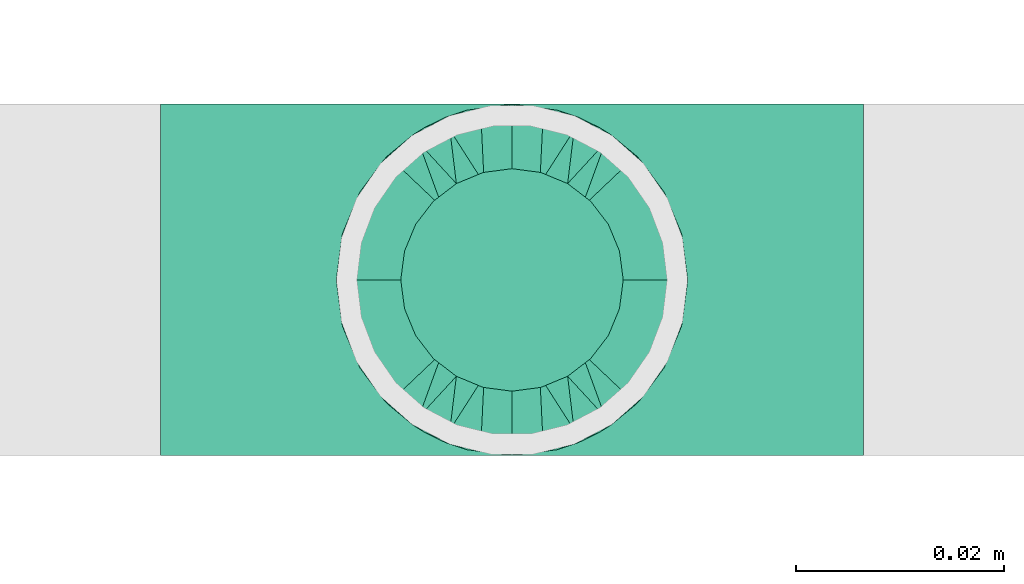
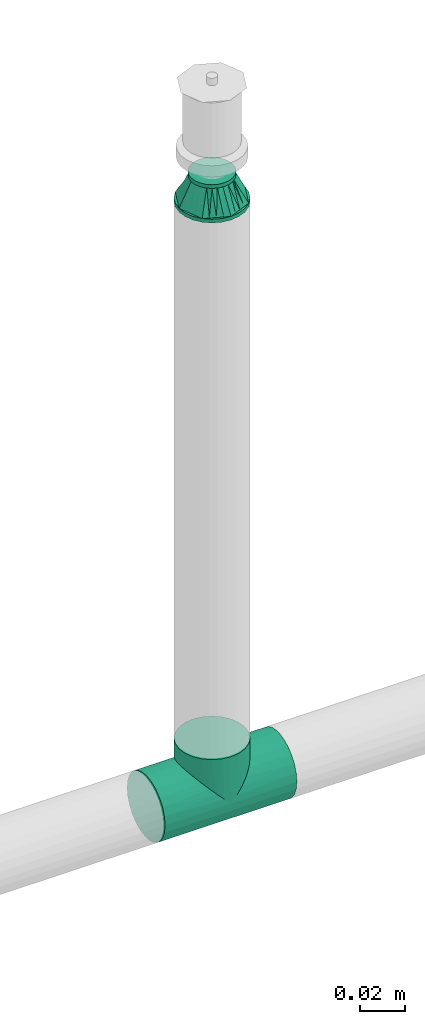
# One storey, part 51 of 63: 2 flow fittings.
"""IFC2X3 building model written with IfcOpenShell, lengths in millimetres."""

from ifc_helpers import new_model, entity, si_unit, converted_unit, derived_unit, direction, frame, origin_with_axes, place, context, subcontext, project, spatial, open_shell, surface_model, source, transform, mapped, type_object, element, save


model = new_model("IFC2X3")

# Units and contexts
model_context = context("Model", 3, precision=0.01, world=frame((0.0, 4.29681676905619e-09, 0.0)), true_north=direction((4.01073788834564e-13, 1.0)))
plan_context = context("Plan", 3, precision=0.01, world=frame((0.0, 4.29681676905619e-09, 0.0)), true_north=direction((4.01073788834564e-13, 1.0)))
body_context = subcontext(model_context, "Body", "Model", "MODEL_VIEW")
ifc_project = project(units=[converted_unit("PLANEANGLEUNIT", "DEGREE", entity("IfcPositiveLengthMeasure", 0.0174532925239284), si_unit("PLANEANGLEUNIT", "RADIAN"), dimensions=[0, 0, 0, 0, 0, 0, 0]), si_unit("AREAUNIT", "SQUARE_METRE"), si_unit("LENGTHUNIT", "METRE", prefix="MILLI"), si_unit("MASSUNIT", "GRAM", prefix="KILO"), si_unit("POWERUNIT", "WATT"), si_unit("PRESSUREUNIT", "PASCAL", prefix="KILO"), si_unit("FORCEUNIT", "NEWTON", prefix="KILO"), si_unit("ELECTRICVOLTAGEUNIT", "VOLT"), si_unit("ELECTRICCURRENTUNIT", "AMPERE"), si_unit("THERMODYNAMICTEMPERATUREUNIT", "DEGREE_CELSIUS"), si_unit("TIMEUNIT", "SECOND"), si_unit("VOLUMEUNIT", "CUBIC_METRE"), derived_unit("LINEARVELOCITYUNIT", [(si_unit("LENGTHUNIT", "METRE"), 1), (si_unit("TIMEUNIT", "SECOND"), -1)]), derived_unit("VOLUMETRICFLOWRATEUNIT", [(si_unit("VOLUMEUNIT", "CUBIC_METRE"), 1), (si_unit("TIMEUNIT", "SECOND"), -1)]), derived_unit("THERMALTRANSMITTANCEUNIT", [(si_unit("POWERUNIT", "WATT"), 1), (si_unit("THERMODYNAMICTEMPERATUREUNIT", "KELVIN"), -1), (si_unit("AREAUNIT", "SQUARE_METRE"), -1)]), derived_unit("SOUNDPRESSUREUNIT", [(si_unit("PRESSUREUNIT", "PASCAL"), 1)])], contexts=[model_context, plan_context])

# Site, building, storey
site_placement = place(None, frame((0.0, -4.29681676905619e-09, 0.0), z_axis=(0.0, 0.0, 1.0), x_axis=(1.0, 0.0, 0.0)))
site = spatial("IfcSite", under=ifc_project, at=site_placement, CompositionType="ELEMENT")
building_placement = place(site_placement, frame((0.0, 4.29681676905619e-09, 0.0), z_axis=(0.0, 0.0, 1.0), x_axis=(1.0, 0.0, 0.0)))
building = spatial("IfcBuilding", under=site, at=building_placement, Name="mc-building", CompositionType="ELEMENT")
storey_placement = place(building_placement, frame((0.0, 0.0, 207370.0), z_axis=(0.0, 0.0, 1.0), x_axis=(1.0, 0.0, 0.0)))
storey = spatial("IfcBuildingStorey", under=building, at=storey_placement, Name="Nivå E", CompositionType="ELEMENT", Elevation=207370.0)

# Flow fittings
pipe_fitting_type_1 = type_object("IfcPipeFittingType", Name="magi_pipe_fe_reducer_centric_short_NOR", PredefinedType="TRANSITION")
shared_shape_1 = source(origin_with_axes(), body_context, "Body", "SurfaceModel", [
    surface_model("IfcShellBasedSurfaceModel", [(14.4, 5.35, -9.26647), (14.4, 0.0, -10.7), (14.4, 2.76936, -10.33541), (14.4, 10.33541, -2.76936), (14.4, 7.56604, -7.56604), (14.4, -10.33541, -2.76936), (14.4, 9.26647, -5.35), (14.4, 0.0, 10.7), (14.4, -5.35, -9.26647), (14.4, -2.76936, -10.33541), (14.4, -7.56604, -7.56604), (14.4, -9.26647, -5.35), (14.4, 10.7, 0.0), (14.4, 10.33541, 2.76936), (14.4, 9.26647, 5.35), (14.4, 7.56604, 7.56604), (14.4, 2.76936, 10.33541), (14.4, 5.35, 9.26647), (14.4, -10.33541, 2.76936), (14.4, -7.56604, 7.56604), (14.4, -9.26647, 5.35), (14.4, -10.7, 0.0), (14.4, -2.76936, 10.33541), (14.4, -5.35, 9.26647), (12.4, 2.76936, 10.33541), (12.4, -10.33541, -2.76936), (12.4, 0.0, 10.7), (12.4, 5.35, 9.26647), (12.4, 7.56604, 7.56604), (12.4, 9.26647, 5.35), (12.4, 10.33541, 2.76936), (12.4, -10.33541, 2.76936), (12.4, -2.76936, 10.33541), (12.4, -7.56604, 7.56604), (12.4, -5.35, 9.26647), (12.4, -9.26647, 5.35), (12.4, -10.7, 0.0), (12.4, 10.33541, -2.76936), (12.4, 5.35, -9.26647), (12.4, 9.26647, -5.35), (12.4, 7.56604, -7.56604), (12.4, 2.76936, -10.33541), (12.4, -9.26647, -5.35), (12.4, -5.35, -9.26647), (12.4, -7.56604, -7.56604), (12.4, 0.0, -10.7), (12.4, -2.76936, -10.33541), (12.4, 10.7, 0.0), (-2.0, 11.9501, 11.9501), (-2.0, 0.0, 16.9), (-2.0, 4.37404, 16.32415), (-2.0, 8.45, 14.63583), (-2.0, 14.63583, 8.45), (-2.0, 16.32415, 4.37404), (-2.0, -16.32415, 4.37404), (-2.0, -8.45, 14.63583), (-2.0, -14.63583, 8.45), (-2.0, -11.9501, 11.9501), (-2.0, -4.37404, 16.32415), (-2.0, -16.32415, -4.37404), (-2.0, -16.9, 0.0), (-2.0, -8.45, -14.63583), (-2.0, 16.32415, -4.37404), (-2.0, 11.9501, -11.9501), (-2.0, 14.63583, -8.45), (-2.0, 8.45, -14.63583), (-2.0, 4.37404, -16.32415), (-2.0, 0.0, -16.9), (-2.0, -11.9501, -11.9501), (-2.0, -14.63583, -8.45), (-2.0, -4.37404, -16.32415), (-2.0, 16.9, 0.0), (0.0, 4.37404, -16.32415), (0.0, 8.45, -14.63583), (0.0, 11.9501, -11.9501), (0.0, 0.0, -16.9), (0.0, 16.32415, -4.37404), (0.0, 16.32415, 4.37404), (0.0, 14.63583, -8.45), (0.0, -8.45, -14.63583), (0.0, -4.37404, -16.32415), (0.0, -11.9501, -11.9501), (0.0, -16.32415, -4.37404), (0.0, -14.63583, -8.45), (0.0, -16.32415, 4.37404), (0.0, 16.9, 0.0), (0.0, 14.63583, 8.45), (0.0, 11.9501, 11.9501), (0.0, 4.37404, 16.32415), (0.0, 8.45, 14.63583), (0.0, 0.0, 16.9), (0.0, -14.63583, 8.45), (0.0, -16.9, 0.0), (0.0, -8.45, 14.63583), (0.0, -11.9501, 11.9501), (0.0, -4.37404, 16.32415), (12.4, 9.3625, -2.31662), (0.0, 14.42505, -5.97505), (0.0, 15.66253, -2.98753), (12.4, -6.6875, -6.94985), (0.0, -13.18758, -8.96258), (0.0, 2.98753, -15.66253), (12.4, 0.0, -9.26647), (12.4, 6.6875, -6.94985), (0.0, 8.96258, -13.18758), (12.4, -9.3625, -2.31662), (0.0, -15.66253, -2.98753), (0.0, -14.42505, -5.97505), (0.0, 5.97505, -14.42505), (0.0, -2.98753, -15.66253), (0.0, -8.96258, -13.18758), (0.0, 13.18758, -8.96258), (12.4, 8.025, -4.63324), (12.4, -2.675, -9.26647), (12.4, 2.675, -9.26647), (0.0, -5.97505, -14.42505), (12.4, -8.025, -4.63324), (12.4, -9.3625, 2.31662), (0.0, -14.42505, 5.97505), (0.0, -15.66253, 2.98753), (12.4, 6.6875, 6.94985), (0.0, 13.18758, 8.96258), (0.0, -2.98753, 15.66253), (12.4, 0.0, 9.26647), (12.4, -6.6875, 6.94985), (0.0, -8.96258, 13.18758), (12.4, 9.3625, 2.31662), (0.0, 15.66253, 2.98753), (0.0, 14.42505, 5.97505), (0.0, -5.97505, 14.42505), (0.0, 2.98753, 15.66253), (0.0, 8.96258, 13.18758), (0.0, -13.18758, 8.96258), (12.4, -8.025, 4.63324), (12.4, 2.675, 9.26647), (12.4, -2.675, 9.26647), (0.0, 5.97505, 14.42505), (12.4, 8.025, 4.63324)], [open_shell([[[0, 1, 2]], [[3, 0, 4]], [[5, 0, 3]], [[3, 4, 6]], [[7, 5, 3]], [[1, 8, 9]], [[1, 0, 8]], [[10, 5, 11]], [[5, 10, 8]], [[0, 5, 8]], [[3, 12, 13]], [[13, 14, 15]], [[13, 15, 16]], [[7, 3, 16]], [[16, 15, 17]], [[7, 18, 5]], [[18, 19, 20]], [[21, 5, 18]], [[19, 22, 23]], [[22, 19, 18]], [[7, 22, 18]], [[13, 16, 3]], [[24, 25, 26]], [[27, 25, 24]], [[28, 29, 30]], [[28, 25, 27]], [[31, 26, 25]], [[32, 33, 34]], [[33, 32, 31]], [[33, 31, 35]], [[32, 26, 31]], [[31, 25, 36]], [[30, 37, 28]], [[25, 28, 37]], [[38, 37, 39]], [[37, 38, 25]], [[38, 39, 40]], [[41, 25, 38]], [[42, 43, 44]], [[43, 42, 25]], [[43, 45, 46]], [[43, 25, 41]], [[41, 45, 43]], [[37, 30, 47]], [[25, 5, 36]], [[42, 11, 25]], [[8, 44, 43]], [[42, 44, 10]], [[9, 43, 46]], [[25, 11, 5]], [[5, 21, 36]], [[9, 8, 43]], [[10, 44, 8]], [[10, 11, 42]], [[1, 9, 46]], [[46, 45, 1]], [[41, 2, 45]], [[38, 0, 41]], [[6, 40, 39]], [[38, 40, 4]], [[3, 39, 37]], [[38, 4, 0]], [[0, 2, 41]], [[12, 3, 37]], [[6, 39, 3]], [[6, 4, 40]], [[47, 12, 37]], [[45, 2, 1]], [[30, 13, 47]], [[29, 14, 30]], [[17, 28, 27]], [[29, 28, 15]], [[16, 27, 24]], [[30, 14, 13]], [[13, 12, 47]], [[16, 17, 27]], [[15, 28, 17]], [[15, 14, 29]], [[7, 16, 24]], [[24, 26, 7]], [[32, 22, 26]], [[34, 23, 32]], [[20, 33, 35]], [[34, 33, 19]], [[18, 35, 31]], [[34, 19, 23]], [[23, 22, 32]], [[21, 18, 31]], [[20, 35, 18]], [[20, 19, 33]], [[36, 21, 31]], [[26, 22, 7]], [[48, 49, 50]], [[48, 50, 51]], [[48, 52, 53]], [[48, 53, 49]], [[49, 53, 54]], [[55, 56, 57]], [[55, 58, 49]], [[56, 55, 49]], [[49, 54, 56]], [[54, 59, 60]], [[54, 53, 61]], [[53, 62, 63]], [[63, 62, 64]], [[63, 65, 66]], [[61, 53, 63]], [[67, 63, 66]], [[59, 68, 69]], [[68, 59, 61]], [[61, 67, 70]], [[59, 54, 61]], [[63, 67, 61]], [[53, 71, 62]], [[72, 73, 74]], [[75, 72, 74]], [[74, 76, 77]], [[76, 74, 78]], [[74, 77, 79]], [[75, 79, 80]], [[75, 74, 79]], [[81, 82, 83]], [[82, 81, 79]], [[79, 84, 82]], [[77, 76, 85]], [[77, 86, 87]], [[77, 87, 88]], [[88, 84, 79]], [[88, 87, 89]], [[84, 88, 90]], [[90, 91, 84]], [[92, 82, 84]], [[91, 93, 94]], [[91, 90, 93]], [[93, 90, 95]], [[79, 77, 88]], [[59, 82, 60]], [[69, 83, 59]], [[79, 68, 61]], [[69, 68, 81]], [[80, 61, 70]], [[59, 83, 82]], [[82, 92, 60]], [[80, 79, 61]], [[81, 68, 79]], [[81, 83, 69]], [[75, 80, 70]], [[70, 67, 75]], [[66, 72, 67]], [[65, 73, 66]], [[78, 63, 64]], [[65, 63, 74]], [[76, 64, 62]], [[65, 74, 73]], [[73, 72, 66]], [[85, 76, 62]], [[78, 64, 76]], [[78, 74, 63]], [[71, 85, 62]], [[67, 72, 75]], [[53, 77, 71]], [[52, 86, 53]], [[89, 48, 51]], [[52, 48, 87]], [[88, 51, 50]], [[53, 86, 77]], [[77, 85, 71]], [[88, 89, 51]], [[87, 48, 89]], [[87, 86, 52]], [[90, 88, 50]], [[50, 49, 90]], [[58, 95, 49]], [[55, 93, 58]], [[91, 57, 56]], [[55, 57, 94]], [[84, 56, 54]], [[55, 94, 93]], [[93, 95, 58]], [[92, 84, 54]], [[91, 56, 84]], [[91, 94, 57]], [[60, 92, 54]], [[49, 95, 90]], [[27, 34, 47]], [[47, 34, 43]], [[43, 38, 47]], [[43, 34, 36]], [[90, 87, 94]], [[92, 94, 87]], [[87, 74, 92]], [[75, 92, 74]], [[81, 92, 75]], [[74, 87, 85]], [[96, 97, 98]], [[81, 99, 100]], [[101, 102, 75]], [[98, 85, 47]], [[74, 103, 104]], [[104, 103, 38]], [[105, 106, 107]], [[38, 108, 104]], [[102, 109, 75]], [[110, 99, 81]], [[47, 96, 98]], [[103, 111, 112]], [[109, 102, 113]], [[36, 92, 106]], [[102, 101, 114]], [[110, 115, 43]], [[96, 112, 97]], [[107, 116, 105]], [[36, 106, 105]], [[113, 115, 109]], [[43, 115, 113]], [[116, 107, 100]], [[108, 38, 114]], [[111, 103, 74]], [[111, 97, 112]], [[99, 110, 43]], [[116, 100, 99]], [[101, 108, 114]], [[117, 118, 119]], [[87, 120, 121]], [[122, 123, 90]], [[119, 92, 36]], [[94, 124, 125]], [[125, 124, 34]], [[126, 127, 128]], [[34, 129, 125]], [[123, 130, 90]], [[131, 120, 87]], [[36, 117, 119]], [[124, 132, 133]], [[130, 123, 134]], [[47, 85, 127]], [[123, 122, 135]], [[131, 136, 27]], [[117, 133, 118]], [[128, 137, 126]], [[47, 127, 126]], [[134, 136, 130]], [[27, 136, 134]], [[137, 128, 121]], [[129, 34, 135]], [[132, 124, 94]], [[132, 118, 133]], [[120, 131, 27]], [[137, 121, 120]], [[122, 129, 135]]])]),
])
flow_fitting_1_placement = place(storey_placement, frame((722410.29865, 446158.4735, 3018.36794), z_axis=(0.0, -1.0, 0.0), x_axis=(0.0, 0.0, 1.0)))
element("IfcFlowFitting", 1, at=flow_fitting_1_placement, inside=storey, type_object=pipe_fitting_type_1, Name="magi_pipe_fe_reducer_centric_short_NOR", context=body_context, shape_type="MappedRepresentation", body=[
    mapped(shared_shape_1, transform((0.0, 0.0, 0.0), scale=1.0)),
])
pipe_fitting_type_2 = type_object("IfcPipeFittingType", Name="magi_pipe_fe_tee_centric_90_NOR", PredefinedType="JUNCTION")
shared_shape_2 = source(origin_with_axes(), body_context, "Body", "SurfaceModel", [
    surface_model("IfcShellBasedSurfaceModel", [(-33.8, 4.37404, -16.32415), (-33.8, 0.0, -16.9), (-33.8, 16.32415, -4.37404), (-33.8, 8.45, -14.63583), (-33.8, 11.9501, -11.9501), (-33.8, 14.63583, -8.45), (-33.8, -16.9, 0.0), (-33.8, -11.9501, -11.9501), (-33.8, -14.63583, -8.45), (-33.8, -8.45, -14.63583), (-33.8, -4.37404, -16.32415), (-33.8, -16.32415, -4.37404), (-33.8, 14.63583, 8.45), (-33.8, 16.32415, 4.37404), (-33.8, -8.45, 14.63583), (-33.8, 8.45, 14.63583), (-33.8, 11.9501, 11.9501), (-33.8, 4.37404, 16.32415), (-33.8, 0.0, 16.9), (-33.8, -11.9501, 11.9501), (-33.8, -14.63583, 8.45), (-33.8, -16.32415, 4.37404), (-33.8, -4.37404, 16.32415), (-33.8, 16.9, 0.0), (33.8, 4.37404, -16.32415), (33.8, -16.9, 0.0), (33.8, 0.0, -16.9), (33.8, 14.63583, -8.45), (33.8, 8.45, -14.63583), (33.8, 16.32415, -4.37404), (33.8, 11.9501, -11.9501), (33.8, -16.32415, 4.37404), (33.8, -8.45, -14.63583), (33.8, -4.37404, -16.32415), (33.8, -11.9501, -11.9501), (33.8, -14.63583, -8.45), (33.8, -16.32415, -4.37404), (33.8, 16.32415, 4.37404), (33.8, 8.45, 14.63583), (33.8, 14.63583, 8.45), (33.8, 11.9501, 11.9501), (33.8, -8.45, 14.63583), (33.8, 4.37404, 16.32415), (33.8, -14.63583, 8.45), (33.8, -11.9501, 11.9501), (33.8, 0.0, 16.9), (33.8, -4.37404, 16.32415), (33.8, 16.9, 0.0), (16.28698, -16.28698, 4.51047), (16.9, -16.9, 0.0), (14.62704, -14.62704, 8.4652), (9.47213, -9.47213, 13.99602), (12.26343, -12.26343, 11.62834), (-16.9, -16.9, 0.0), (-16.28698, -16.28698, 4.51047), (-14.62704, -14.62704, 8.4652), (-12.26343, -12.26343, 11.62834), (-9.47213, -9.47213, 13.99602), (-6.42894, -6.42894, 15.62942), (6.42894, -6.42894, 15.62942), (3.24522, -3.24522, 16.58549), (0.0, 0.0, 16.9), (-3.24522, -3.24522, 16.58549), (3.24522, -3.24522, -16.58549), (0.0, 0.0, -16.9), (-3.24522, -3.24522, -16.58549), (-6.42894, -6.42894, -15.62942), (6.42894, -6.42894, -15.62942), (9.47213, -9.47213, -13.99602), (12.26343, -12.26343, -11.62834), (14.62704, -14.62704, -8.4652), (16.28698, -16.28698, -4.51047), (-9.47213, -9.47213, -13.99602), (-12.26343, -12.26343, -11.62834), (-16.28698, -16.28698, -4.51047), (-14.62704, -14.62704, -8.4652), (4.37404, -25.35, -16.32415), (-16.9, -25.35, 0.0), (0.0, -25.35, -16.9), (14.63583, -25.35, -8.45), (8.45, -25.35, -14.63583), (16.32415, -25.35, -4.37404), (11.9501, -25.35, -11.9501), (-11.9501, -25.35, -11.9501), (-8.45, -25.35, -14.63583), (-4.37404, -25.35, -16.32415), (-14.63583, -25.35, -8.45), (-16.32415, -25.35, -4.37404), (16.9, -25.35, 0.0), (8.45, -25.35, 14.63583), (16.32415, -25.35, 4.37404), (14.63583, -25.35, 8.45), (-8.45, -25.35, 14.63583), (11.9501, -25.35, 11.9501), (4.37404, -25.35, 16.32415), (-16.32415, -25.35, 4.37404), (-11.9501, -25.35, 11.9501), (-14.63583, -25.35, 8.45), (0.0, -25.35, 16.9), (-4.37404, -25.35, 16.32415)], [open_shell([[[0, 1, 2]], [[3, 0, 4]], [[0, 2, 5]], [[4, 0, 5]], [[6, 2, 1]], [[7, 8, 9]], [[1, 10, 9]], [[11, 6, 8]], [[1, 9, 8]], [[1, 8, 6]], [[6, 12, 2]], [[12, 13, 2]], [[14, 12, 6]], [[12, 14, 15]], [[16, 12, 15]], [[17, 15, 18]], [[19, 14, 20]], [[21, 20, 14]], [[22, 18, 14]], [[14, 6, 21]], [[14, 18, 15]], [[23, 2, 13]], [[24, 25, 26]], [[27, 24, 28]], [[27, 29, 24]], [[27, 28, 30]], [[31, 25, 24]], [[26, 32, 33]], [[26, 34, 32]], [[35, 25, 36]], [[35, 34, 26]], [[25, 35, 26]], [[24, 29, 31]], [[29, 37, 38]], [[38, 37, 39]], [[38, 31, 29]], [[38, 39, 40]], [[41, 38, 42]], [[43, 41, 44]], [[41, 43, 31]], [[41, 45, 46]], [[41, 31, 38]], [[42, 45, 41]], [[29, 47, 37]], [[31, 43, 48]], [[25, 31, 49]], [[49, 31, 48]], [[43, 50, 48]], [[44, 41, 51]], [[50, 43, 52]], [[51, 52, 44]], [[52, 43, 44]], [[53, 54, 21]], [[53, 21, 6]], [[21, 54, 20]], [[54, 55, 20]], [[56, 57, 19]], [[19, 20, 56]], [[19, 57, 14]], [[56, 20, 55]], [[14, 57, 58]], [[51, 41, 59]], [[60, 45, 61]], [[59, 46, 60]], [[46, 59, 41]], [[60, 46, 45]], [[61, 45, 42]], [[39, 37, 13]], [[16, 38, 40]], [[12, 40, 39]], [[42, 38, 15]], [[23, 37, 47]], [[62, 61, 18]], [[62, 22, 58]], [[22, 62, 18]], [[58, 22, 14]], [[61, 17, 18]], [[42, 17, 61]], [[15, 17, 42]], [[15, 38, 16]], [[12, 16, 40]], [[13, 12, 39]], [[37, 23, 13]], [[5, 27, 30]], [[23, 47, 29]], [[30, 28, 3]], [[27, 2, 29]], [[26, 33, 63]], [[26, 64, 24]], [[64, 26, 63]], [[28, 24, 0]], [[64, 0, 24]], [[4, 30, 3]], [[2, 27, 5]], [[5, 30, 4]], [[2, 23, 29]], [[65, 66, 10]], [[1, 0, 64]], [[1, 65, 10]], [[66, 9, 10]], [[0, 3, 28]], [[1, 64, 65]], [[63, 33, 67]], [[32, 34, 68]], [[69, 68, 34]], [[35, 70, 69]], [[69, 34, 35]], [[32, 68, 67]], [[36, 25, 49]], [[36, 71, 35]], [[71, 36, 49]], [[35, 71, 70]], [[72, 9, 66]], [[72, 7, 9]], [[7, 72, 73]], [[7, 73, 8]], [[74, 53, 11]], [[75, 74, 8]], [[74, 11, 8]], [[11, 53, 6]], [[75, 8, 73]], [[32, 67, 33]], [[76, 77, 78]], [[79, 76, 80]], [[79, 81, 76]], [[79, 80, 82]], [[77, 76, 81]], [[78, 83, 84]], [[84, 85, 78]], [[86, 77, 87]], [[83, 78, 86]], [[77, 86, 78]], [[81, 88, 77]], [[89, 88, 90]], [[89, 90, 91]], [[92, 77, 89]], [[89, 91, 93]], [[92, 89, 94]], [[95, 96, 97]], [[96, 95, 92]], [[92, 98, 99]], [[95, 77, 92]], [[94, 98, 92]], [[89, 77, 88]], [[77, 95, 53]], [[54, 53, 95]], [[97, 96, 56]], [[96, 92, 57]], [[95, 97, 54]], [[58, 92, 99]], [[55, 54, 97]], [[56, 55, 97]], [[58, 57, 92]], [[98, 61, 62]], [[58, 99, 62]], [[56, 96, 57]], [[62, 99, 98]], [[94, 60, 98]], [[89, 59, 94]], [[91, 90, 48]], [[52, 93, 91]], [[93, 51, 89]], [[49, 90, 88]], [[59, 60, 94]], [[51, 59, 89]], [[49, 48, 90]], [[50, 52, 91]], [[48, 50, 91]], [[51, 93, 52]], [[98, 60, 61]], [[88, 81, 49]], [[71, 49, 81]], [[79, 82, 69]], [[82, 80, 68]], [[81, 79, 71]], [[67, 80, 76]], [[70, 71, 79]], [[69, 70, 79]], [[67, 68, 80]], [[78, 64, 63]], [[67, 76, 63]], [[69, 82, 68]], [[63, 76, 78]], [[85, 65, 78]], [[84, 66, 85]], [[86, 87, 74]], [[86, 73, 83]], [[72, 84, 83]], [[53, 87, 77]], [[66, 65, 85]], [[72, 66, 84]], [[53, 74, 87]], [[75, 73, 86]], [[74, 75, 86]], [[72, 83, 73]], [[78, 65, 64]]])]),
])
flow_fitting_2_placement = place(storey_placement, frame((722410.29865, 446158.4735, 2700.0), z_axis=(0.0, -1.0, 0.0), x_axis=(-1.0, 0.0, 0.0)))
element("IfcFlowFitting", 2, at=flow_fitting_2_placement, inside=storey, type_object=pipe_fitting_type_2, Name="magi_pipe_fe_tee_centric_90_NOR", context=body_context, shape_type="MappedRepresentation", body=[
    mapped(shared_shape_2, transform((0.0, 0.0, 0.0), scale=1.0)),
])

save(model, "model.ifc")
